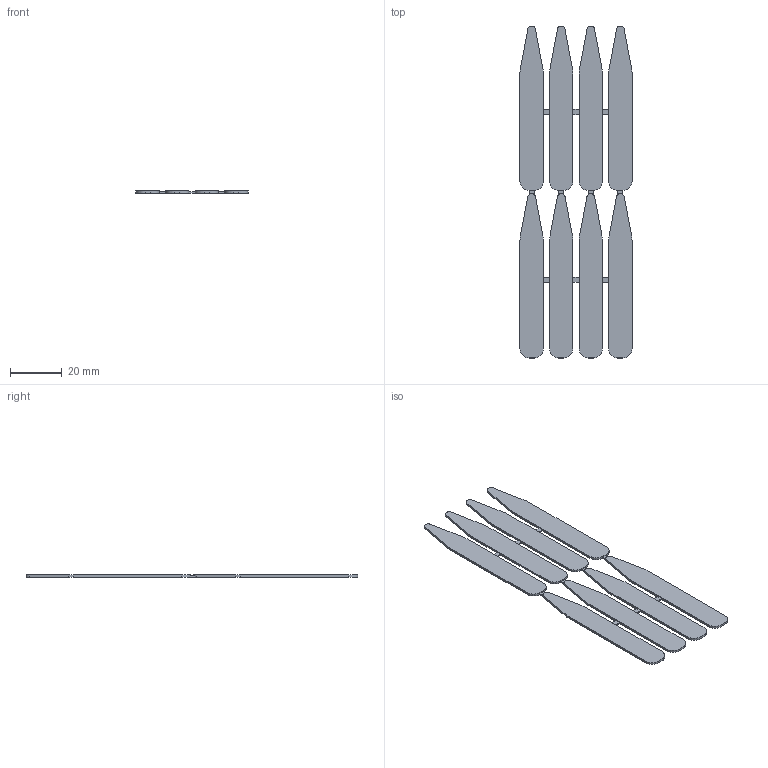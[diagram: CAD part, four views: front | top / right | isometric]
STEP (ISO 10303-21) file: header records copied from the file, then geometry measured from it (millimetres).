
FILE_DESCRIPTION(/* description */ ('STEP AP242','CAx-IF Rec.Pracs.---Representation and Presentation of Product Manufacturing Information (PMI)---4.0---2014-10-13','CAx-IF Rec.Pracs.---3D Tessellated Geometry---0.4---2014-09-14','2;1'),/* implementation_level */ '2;1');
FILE_NAME(/* name */ '6287f73176b58427c243ed24',/* time_stamp */ '2022-05-20T20:16:50+00:00',/* author */ (''),/* organization */ (''),/* preprocessor_version */ 'ST-DEVELOPER v18.102',/* originating_system */ ' ',/* authorisation */ ' ');
FILE_SCHEMA (('AP242_MANAGED_MODEL_BASED_3D_ENGINEERING_MIM_LF { 1 0 10303 442 1 1 4 }'));
Length unit declared in the file: metre
Products named in the file (1): Part 1
Bounding box: 43.29 x 128.27 x 0.85 mm (x, y, z)
Volume: 3482.6 mm3; surface area: 9152.8 mm2
Topology: 1 solids, 1 shells, 119 faces, 352 edges, 232 vertices
Faces by surface type: plane 79, cylinder 40
Entity records: 4004 total; most frequent: ORIENTED_EDGE 704, CARTESIAN_POINT 704, DIRECTION 680, EDGE_CURVE 352, LINE 264, VECTOR 264, VERTEX_POINT 232, AXIS2_PLACEMENT_3D 208
